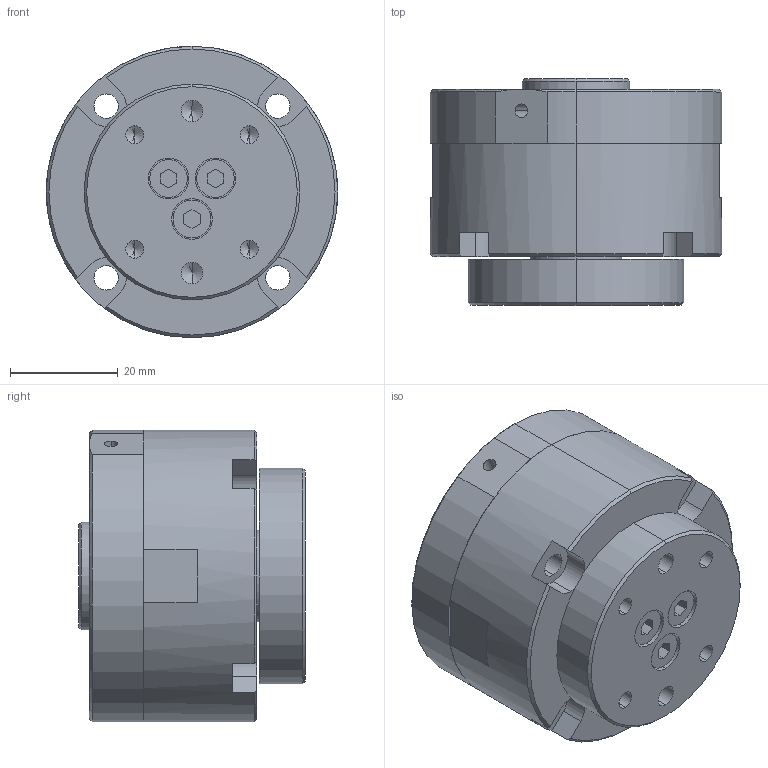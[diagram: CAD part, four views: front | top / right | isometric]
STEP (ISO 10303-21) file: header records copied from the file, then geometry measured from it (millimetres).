
FILE_DESCRIPTION (( 'STEP AP203' ), '1' );
FILE_NAME ('FCD-NE10RC-2T.STEP', '2020-05-12T00:23:01', ( '' ), ( '' ), 'SwSTEP 2.0', 'SolidWorks 2013', '' );
FILE_SCHEMA (( 'CONFIG_CONTROL_DESIGN' ));
Length unit declared in the file: millimetre
Products named in the file (1): FCD-NE10RC-2T
Bounding box: 54 x 42 x 54 mm (x, y, z)
Volume: 78673.2 mm3; surface area: 20967.4 mm2
Topology: 2 solids, 2 shells, 200 faces, 490 edges, 309 vertices
Faces by surface type: plane 91, cylinder 79, cone 30
Entity records: 5899 total; most frequent: DIRECTION 1046, CARTESIAN_POINT 1012, ORIENTED_EDGE 944, EDGE_CURVE 472, AXIS2_PLACEMENT_3D 383, VERTEX_POINT 309, LINE 280, VECTOR 280
